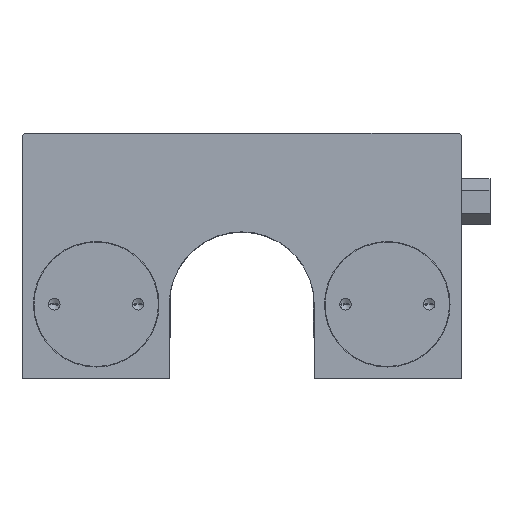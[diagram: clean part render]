
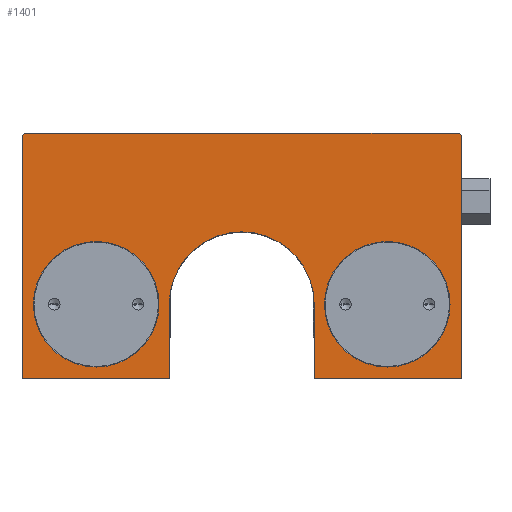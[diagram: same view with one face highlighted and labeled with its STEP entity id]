
A CAD part, top view. The second image highlights one B-rep face of the part: STEP entity #1401.
In plain terms, the highlighted planar face has unit normal (0, 0, 1).
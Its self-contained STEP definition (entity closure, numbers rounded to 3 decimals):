
#919 = VERTEX_POINT( '', #2662 );
#923 = VERTEX_POINT( '', #2672 );
#995 = VERTEX_POINT( '', #2756 );
#1061 = EDGE_CURVE( '', #1613, #1427, #2828, .T. );
#1131 = EDGE_CURVE( '', #2595, #2127, #2902, .T. );
#1195 = EDGE_CURVE( '', #2503, #2239, #2976, .T. );
#1221 = EDGE_CURVE( '', #1729, #2325, #3007, .T. );
#1277 = EDGE_CURVE( '', #2127, #923, #3082, .T. );
#1293 = EDGE_CURVE( '', #1427, #995, #3100, .T. );
#1295 = EDGE_CURVE( '', #1929, #919, #3102, .T. );
#1401 = ADVANCED_FACE( '', ( #3215, #3216, #3217 ), #3218, .F. );
#1427 = VERTEX_POINT( '', #3247 );
#1613 = VERTEX_POINT( '', #3458 );
#1729 = VERTEX_POINT( '', #3590 );
#1803 = EDGE_CURVE( '', #995, #2315, #3674, .T. );
#1859 = EDGE_CURVE( '', #923, #1613, #3736, .T. );
#1871 = EDGE_CURVE( '', #919, #1929, #3748, .T. );
#1927 = EDGE_CURVE( '', #2325, #1729, #3808, .T. );
#1929 = VERTEX_POINT( '', #3810 );
#2003 = VERTEX_POINT( '', #3891 );
#2127 = VERTEX_POINT( '', #4022 );
#2239 = VERTEX_POINT( '', #4148 );
#2265 = EDGE_CURVE( '', #2003, #2503, #4183, .T. );
#2315 = VERTEX_POINT( '', #4235 );
#2321 = EDGE_CURVE( '', #2239, #2595, #4242, .T. );
#2325 = VERTEX_POINT( '', #4246 );
#2455 = EDGE_CURVE( '', #2315, #2003, #4389, .T. );
#2503 = VERTEX_POINT( '', #4444 );
#2595 = VERTEX_POINT( '', #4548 );
#2662 = CARTESIAN_POINT( '', ( 36.5, 13., 21. ) );
#2672 = CARTESIAN_POINT( '', ( -38.5, 42.6, 21. ) );
#2756 = CARTESIAN_POINT( '', ( 38.5, 42.6, 21. ) );
#2828 = LINE( '', #4862, #4863 );
#2902 = LINE( '', #4968, #4969 );
#2976 = CIRCLE( '', #5093, 12.7 );
#3007 = CIRCLE( '', #5132, 11. );
#3082 = LINE( '', #5226, #5227 );
#3100 = LINE( '', #5252, #5253 );
#3102 = CIRCLE( '', #5256, 11. );
#3215 = FACE_BOUND( '', #5439, .T. );
#3216 = FACE_BOUND( '', #5440, .T. );
#3217 = FACE_OUTER_BOUND( '', #5441, .T. );
#3218 = PLANE( '', #5442 );
#3247 = CARTESIAN_POINT( '', ( 38.1, 43., 21. ) );
#3458 = CARTESIAN_POINT( '', ( -38.1, 43., 21. ) );
#3590 = CARTESIAN_POINT( '', ( -14.5, 13., 21. ) );
#3674 = LINE( '', #6057, #6058 );
#3736 = LINE( '', #6142, #6143 );
#3748 = CIRCLE( '', #6164, 11. );
#3808 = CIRCLE( '', #6253, 11. );
#3810 = CARTESIAN_POINT( '', ( 14.5, 13., 21. ) );
#3891 = CARTESIAN_POINT( '', ( 12.7, 0., 21. ) );
#4022 = CARTESIAN_POINT( '', ( -38.5, 0., 21. ) );
#4148 = CARTESIAN_POINT( '', ( -12.7, 13., 21. ) );
#4183 = LINE( '', #6769, #6770 );
#4235 = CARTESIAN_POINT( '', ( 38.5, 0., 21. ) );
#4242 = LINE( '', #6850, #6851 );
#4246 = CARTESIAN_POINT( '', ( -36.5, 13., 21. ) );
#4389 = LINE( '', #7079, #7080 );
#4444 = CARTESIAN_POINT( '', ( 12.7, 13., 21. ) );
#4548 = CARTESIAN_POINT( '', ( -12.7, 0., 21. ) );
#4862 = CARTESIAN_POINT( '', ( -38.1, 43., 21. ) );
#4863 = VECTOR( '', #7644, 1. );
#4968 = CARTESIAN_POINT( '', ( -12.7, 0., 21. ) );
#4969 = VECTOR( '', #7716, 1. );
#5093 = AXIS2_PLACEMENT_3D( '', #7805, #7806, #7807 );
#5132 = AXIS2_PLACEMENT_3D( '', #7851, #7852, #7853 );
#5226 = CARTESIAN_POINT( '', ( -38.5, 0., 21. ) );
#5227 = VECTOR( '', #7980, 1. );
#5252 = CARTESIAN_POINT( '', ( 38.1, 43., 21. ) );
#5253 = VECTOR( '', #8004, 1. );
#5256 = AXIS2_PLACEMENT_3D( '', #8005, #8006, #8007 );
#5439 = EDGE_LOOP( '', ( #8099, #8100 ) );
#5440 = EDGE_LOOP( '', ( #8101, #8102 ) );
#5441 = EDGE_LOOP( '', ( #8103, #8104, #8105, #8106, #8107, #8108, #8109, #8110, #8111, #8112 ) );
#5442 = AXIS2_PLACEMENT_3D( '', #8113, #8114, #8115 );
#6057 = CARTESIAN_POINT( '', ( 38.5, 42.6, 21. ) );
#6058 = VECTOR( '', #8685, 1. );
#6142 = CARTESIAN_POINT( '', ( -38.5, 42.6, 21. ) );
#6143 = VECTOR( '', #8759, 1. );
#6164 = AXIS2_PLACEMENT_3D( '', #8769, #8770, #8771 );
#6253 = AXIS2_PLACEMENT_3D( '', #8831, #8832, #8833 );
#6769 = CARTESIAN_POINT( '', ( 12.7, 0., 21. ) );
#6770 = VECTOR( '', #9207, 1. );
#6850 = CARTESIAN_POINT( '', ( -12.7, 13., 21. ) );
#6851 = VECTOR( '', #9252, 1. );
#7079 = CARTESIAN_POINT( '', ( 38.5, 0., 21. ) );
#7080 = VECTOR( '', #9401, 1. );
#7644 = DIRECTION( '', ( 1., 0., 0. ) );
#7716 = DIRECTION( '', ( -1., 0., 0. ) );
#7805 = CARTESIAN_POINT( '', ( 0., 13., 21. ) );
#7806 = DIRECTION( '', ( 0., 0., 1. ) );
#7807 = DIRECTION( '', ( 1., 0., 0. ) );
#7851 = CARTESIAN_POINT( '', ( -25.5, 13., 21. ) );
#7852 = DIRECTION( '', ( 0., 0., -1. ) );
#7853 = DIRECTION( '', ( -1., 0., 0. ) );
#7980 = DIRECTION( '', ( 0., 1., 0. ) );
#8004 = DIRECTION( '', ( 0.707, -0.707, 0. ) );
#8005 = CARTESIAN_POINT( '', ( 25.5, 13., 21. ) );
#8006 = DIRECTION( '', ( 0., 0., -1. ) );
#8007 = DIRECTION( '', ( -1., 0., 0. ) );
#8099 = ORIENTED_EDGE( '', *, *, #1221, .T. );
#8100 = ORIENTED_EDGE( '', *, *, #1927, .T. );
#8101 = ORIENTED_EDGE( '', *, *, #1871, .T. );
#8102 = ORIENTED_EDGE( '', *, *, #1295, .T. );
#8103 = ORIENTED_EDGE( '', *, *, #2455, .F. );
#8104 = ORIENTED_EDGE( '', *, *, #1803, .F. );
#8105 = ORIENTED_EDGE( '', *, *, #1293, .F. );
#8106 = ORIENTED_EDGE( '', *, *, #1061, .F. );
#8107 = ORIENTED_EDGE( '', *, *, #1859, .F. );
#8108 = ORIENTED_EDGE( '', *, *, #1277, .F. );
#8109 = ORIENTED_EDGE( '', *, *, #1131, .F. );
#8110 = ORIENTED_EDGE( '', *, *, #2321, .F. );
#8111 = ORIENTED_EDGE( '', *, *, #1195, .F. );
#8112 = ORIENTED_EDGE( '', *, *, #2265, .F. );
#8113 = CARTESIAN_POINT( '', ( 0., 0., 21. ) );
#8114 = DIRECTION( '', ( 0., 0., -1. ) );
#8115 = DIRECTION( '', ( -1., 0., 0. ) );
#8685 = DIRECTION( '', ( 0., -1., 0. ) );
#8759 = DIRECTION( '', ( 0.707, 0.707, 0. ) );
#8769 = CARTESIAN_POINT( '', ( 25.5, 13., 21. ) );
#8770 = DIRECTION( '', ( 0., 0., -1. ) );
#8771 = DIRECTION( '', ( -1., 0., 0. ) );
#8831 = CARTESIAN_POINT( '', ( -25.5, 13., 21. ) );
#8832 = DIRECTION( '', ( 0., 0., -1. ) );
#8833 = DIRECTION( '', ( -1., 0., 0. ) );
#9207 = DIRECTION( '', ( 0., 1., 0. ) );
#9252 = DIRECTION( '', ( 0., -1., 0. ) );
#9401 = DIRECTION( '', ( -1., 0., 0. ) );
